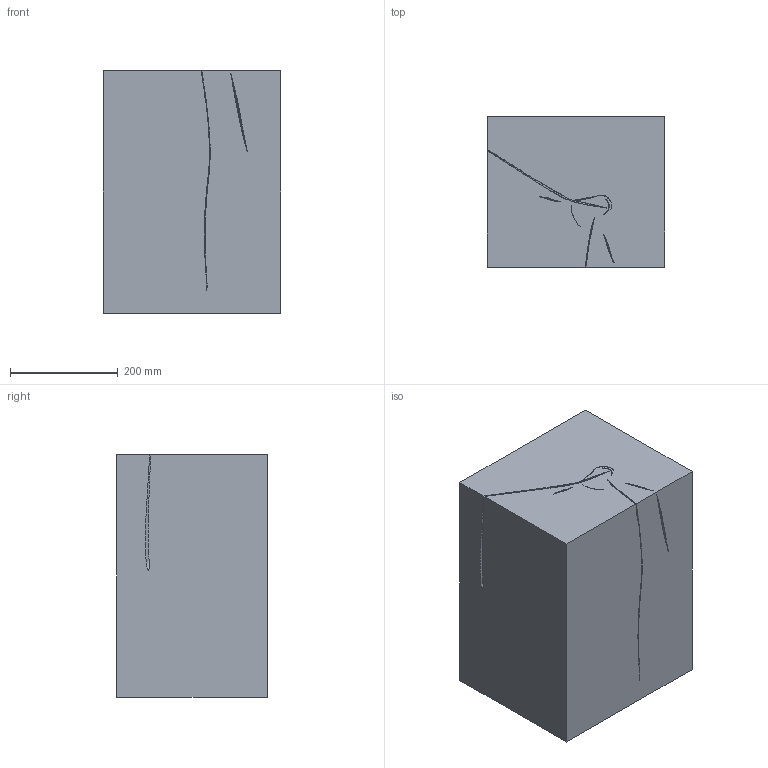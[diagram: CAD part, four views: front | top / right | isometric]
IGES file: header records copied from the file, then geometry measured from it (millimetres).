
Global section: file name: C:\Users\Timo Mikkonen\Desktop\Nikari 3d. tiedostot rfa\COFFEE TABLES\iges\Biennale stool table.igs; native system: Rhinoceros ( Sep  8 2025 ); preprocessor: Trout Lake IGES 012 Sep  8 2025; date: 250915.112027; units: millimetre
Bounding box: 330 x 280 x 450 mm (x, y, z)
Surface area: 824868.5 mm2 (no closed solid volume)
Topology: 0 solids, 0 shells, 25 faces, 615 edges, 612 vertices
Faces by surface type: bspline 25
